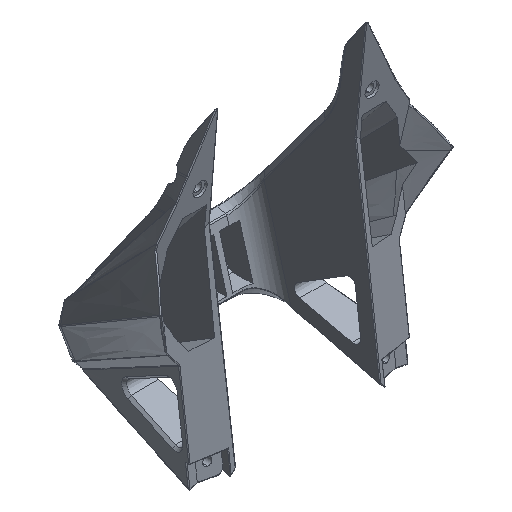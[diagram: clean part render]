
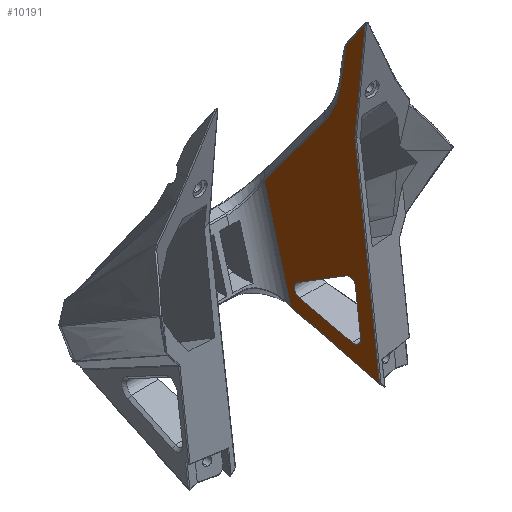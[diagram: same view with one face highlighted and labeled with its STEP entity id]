
A CAD part, isometric view. The second image highlights one B-rep face of the part: STEP entity #10191.
In plain terms, the highlighted planar face has unit normal (-1, -0.025, 0.007).
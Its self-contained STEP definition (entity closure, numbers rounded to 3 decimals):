
#796=CARTESIAN_POINT('',(47.2,285.738,119.605));
#810=DIRECTION('',(-0.004,-0.127,-0.992));
#811=VECTOR('',#810,28.851);
#812=CARTESIAN_POINT('',(48.491,225.532,87.612));
#813=LINE('',#812,#811);
#814=CARTESIAN_POINT('',(47.395,262.093,62.951));
#815=CARTESIAN_POINT('',(47.385,262.527,63.064));
#816=CARTESIAN_POINT('',(47.372,263.123,63.329));
#817=CARTESIAN_POINT('',(47.354,263.995,63.908));
#818=CARTESIAN_POINT('',(47.341,264.701,64.688));
#819=CARTESIAN_POINT('',(47.335,265.232,65.672));
#820=CARTESIAN_POINT('',(47.335,265.504,66.694));
#821=CARTESIAN_POINT('',(47.342,265.541,67.751));
#822=CARTESIAN_POINT('',(47.355,265.32,68.847));
#823=CARTESIAN_POINT('',(47.373,264.871,69.799));
#824=CARTESIAN_POINT('',(47.396,264.205,70.606));
#825=CARTESIAN_POINT('',(47.411,263.712,71.034));
#826=CARTESIAN_POINT('',(47.423,263.329,71.268));
#828=DIRECTION('',(-0.023,0.968,0.251));
#829=VECTOR('',#828,35.7);
#830=CARTESIAN_POINT('',(48.203,227.541,54.005));
#831=LINE('',#830,#829);
#832=CARTESIAN_POINT('',(48.381,221.879,58.993));
#833=CARTESIAN_POINT('',(48.379,221.808,58.437));
#834=CARTESIAN_POINT('',(48.371,221.875,57.562));
#835=CARTESIAN_POINT('',(48.349,222.327,56.172));
#836=CARTESIAN_POINT('',(48.316,223.307,54.907));
#837=CARTESIAN_POINT('',(48.275,224.686,54.094));
#838=CARTESIAN_POINT('',(48.237,226.121,53.821));
#839=CARTESIAN_POINT('',(48.215,226.998,53.865));
#840=CARTESIAN_POINT('',(48.203,227.541,54.005));
#842=DIRECTION('',(-0.022,0.962,0.273));
#843=VECTOR('',#842,59.945);
#844=CARTESIAN_POINT('',(48.551,209.41,38.666));
#845=LINE('',#844,#843);
#846=CARTESIAN_POINT('',(47.214,267.06,55.043));
#847=CARTESIAN_POINT('',(47.212,267.16,55.091));
#848=CARTESIAN_POINT('',(47.207,267.367,55.188));
#849=CARTESIAN_POINT('',(47.202,267.585,55.287));
#850=CARTESIAN_POINT('',(47.2,267.697,55.337));
#852=DIRECTION('',(0.,-0.27,-0.963));
#853=VECTOR('',#852,66.751);
#854=CARTESIAN_POINT('',(47.2,285.738,119.605));
#855=LINE('',#854,#853);
#856=CARTESIAN_POINT('',(47.2,285.738,119.605));
#857=CARTESIAN_POINT('',(47.201,285.705,119.66));
#858=CARTESIAN_POINT('',(47.203,285.638,119.772));
#859=CARTESIAN_POINT('',(47.206,285.57,119.887));
#860=CARTESIAN_POINT('',(47.207,285.535,119.946));
#862=DIRECTION('',(0.021,-0.593,0.805));
#863=VECTOR('',#862,65.935);
#864=CARTESIAN_POINT('',(47.207,285.535,119.946));
#865=LINE('',#864,#863);
#866=CARTESIAN_POINT('',(48.568,246.444,173.026));
#867=CARTESIAN_POINT('',(48.591,245.789,173.916));
#868=CARTESIAN_POINT('',(48.635,244.542,175.724));
#869=CARTESIAN_POINT('',(48.696,242.892,178.443));
#870=CARTESIAN_POINT('',(48.756,241.34,181.385));
#871=CARTESIAN_POINT('',(48.815,239.914,184.535));
#872=CARTESIAN_POINT('',(48.877,238.508,188.289));
#873=CARTESIAN_POINT('',(48.939,237.265,192.625));
#874=CARTESIAN_POINT('',(48.978,236.622,195.934));
#875=CARTESIAN_POINT('',(48.997,236.373,197.695));
#877=DIRECTION('',(0.011,-0.14,0.99));
#878=VECTOR('',#877,26.673);
#879=CARTESIAN_POINT('',(48.997,236.373,197.695));
#880=LINE('',#879,#878);
#881=DIRECTION('',(-0.02,0.561,-0.828));
#882=VECTOR('',#881,22.145);
#883=CARTESIAN_POINT('',(49.721,220.221,242.431));
#884=LINE('',#883,#882);
#885=DIRECTION('',(-0.009,0.091,-0.996));
#886=VECTOR('',#885,69.278);
#887=CARTESIAN_POINT('',(49.721,220.221,242.431));
#888=LINE('',#887,#886);
#950=CARTESIAN_POINT('',(48.491,225.532,87.612));
#951=CARTESIAN_POINT('',(48.493,225.599,88.134));
#952=CARTESIAN_POINT('',(48.492,225.868,88.894));
#953=CARTESIAN_POINT('',(48.481,226.601,90.012));
#954=CARTESIAN_POINT('',(48.458,227.771,90.881));
#955=CARTESIAN_POINT('',(48.425,229.181,91.251));
#956=CARTESIAN_POINT('',(48.391,230.511,91.123));
#957=CARTESIAN_POINT('',(48.369,231.273,90.858));
#958=CARTESIAN_POINT('',(48.356,231.722,90.584));
#977=DIRECTION('',(-0.025,0.853,-0.521));
#978=VECTOR('',#977,37.054);
#979=CARTESIAN_POINT('',(48.356,231.722,90.584));
#980=LINE('',#979,#978);
#2018=CARTESIAN_POINT('',(49.073,226.529,173.444));
#2019=CARTESIAN_POINT('',(49.016,224.631,158.497));
#2020=CARTESIAN_POINT('',(48.9,220.831,128.583));
#2021=CARTESIAN_POINT('',(48.726,215.125,83.657));
#2022=CARTESIAN_POINT('',(48.609,211.316,53.669));
#2023=CARTESIAN_POINT('',(48.551,209.41,38.666));
#8576=CARTESIAN_POINT('',(49.278,232.643,224.104));
#9157=VERTEX_POINT('',#796);
#9161=VERTEX_POINT('',#860);
#9162=VERTEX_POINT('',#866);
#9163=VERTEX_POINT('',#875);
#9178=CARTESIAN_POINT('',(48.551,209.41,38.666));
#9179=CARTESIAN_POINT('',(47.214,267.06,55.043));
#9180=VERTEX_POINT('',#9178);
#9181=VERTEX_POINT('',#9179);
#9182=VERTEX_POINT('',#850);
#9238=VERTEX_POINT('',#8576);
#9380=CARTESIAN_POINT('',(48.491,225.532,87.612));
#9381=CARTESIAN_POINT('',(48.381,221.879,58.993));
#9382=VERTEX_POINT('',#9380);
#9383=VERTEX_POINT('',#9381);
#9384=VERTEX_POINT('',#958);
#9385=VERTEX_POINT('',#840);
#9386=CARTESIAN_POINT('',(47.395,262.093,62.951));
#9387=VERTEX_POINT('',#9386);
#9388=CARTESIAN_POINT('',(47.423,263.329,71.268));
#9389=VERTEX_POINT('',#9388);
#9445=CARTESIAN_POINT('',(49.721,220.221,242.431));
#9446=VERTEX_POINT('',#9445);
#9447=VERTEX_POINT('',#2018);
#10152=CARTESIAN_POINT('',(47.21,251.256,-1.781));
#10153=DIRECTION('',(-1.,-0.025,0.007));
#10154=DIRECTION('',(0.,0.27,0.963));
#10155=AXIS2_PLACEMENT_3D('',#10152,#10153,#10154);
#10156=PLANE('',#10155);
#10158=ORIENTED_EDGE('',*,*,#10157,.T.);
#10160=ORIENTED_EDGE('',*,*,#10159,.T.);
#10161=ORIENTED_EDGE('',*,*,#10142,.T.);
#10162=ORIENTED_EDGE('',*,*,#9994,.F.);
#10164=ORIENTED_EDGE('',*,*,#10163,.T.);
#10166=ORIENTED_EDGE('',*,*,#10165,.T.);
#10168=ORIENTED_EDGE('',*,*,#10167,.T.);
#10170=ORIENTED_EDGE('',*,*,#10169,.T.);
#10172=ORIENTED_EDGE('',*,*,#10171,.F.);
#10174=ORIENTED_EDGE('',*,*,#10173,.T.);
#10175=EDGE_LOOP('',(#10158,#10160,#10161,#10162,#10164,#10166,#10168,#10170,
#10172,#10174));
#10176=FACE_OUTER_BOUND('',#10175,.F.);
#10178=ORIENTED_EDGE('',*,*,#10177,.F.);
#10180=ORIENTED_EDGE('',*,*,#10179,.T.);
#10182=ORIENTED_EDGE('',*,*,#10181,.T.);
#10184=ORIENTED_EDGE('',*,*,#10183,.F.);
#10186=ORIENTED_EDGE('',*,*,#10185,.F.);
#10188=ORIENTED_EDGE('',*,*,#10187,.F.);
#10189=EDGE_LOOP('',(#10178,#10180,#10182,#10184,#10186,#10188));
#10190=FACE_BOUND('',#10189,.F.);
#10191=ADVANCED_FACE('',(#10176,#10190),#10156,.T.);
#827=B_SPLINE_CURVE_WITH_KNOTS('',3,(#814,#815,#816,#817,#818,#819,#820,#821,
#822,#823,#824,#825,#826),.UNSPECIFIED.,.F.,.F.,(4,1,1,1,1,1,1,1,1,1,4),(0.,
0.063,0.125,0.25,0.375,0.5,0.625,0.75,0.875,0.938,1.),
.UNSPECIFIED.);
#841=B_SPLINE_CURVE_WITH_KNOTS('',3,(#832,#833,#834,#835,#836,#837,#838,#839,
#840),.UNSPECIFIED.,.F.,.F.,(4,1,1,1,1,1,4),(0.,0.125,0.25,0.5,0.75,
0.875,1.),.UNSPECIFIED.);
#851=B_SPLINE_CURVE_WITH_KNOTS('',3,(#846,#847,#848,#849,#850),.UNSPECIFIED.,
.F.,.F.,(4,1,4),(0.,0.5,1.),.UNSPECIFIED.);
#861=B_SPLINE_CURVE_WITH_KNOTS('',3,(#856,#857,#858,#859,#860),.UNSPECIFIED.,
.F.,.F.,(4,1,4),(0.,0.5,1.),.UNSPECIFIED.);
#876=B_SPLINE_CURVE_WITH_KNOTS('',3,(#866,#867,#868,#869,#870,#871,#872,#873,
#874,#875),.UNSPECIFIED.,.F.,.F.,(4,1,1,1,1,1,1,4),(0.,0.143,
0.286,0.429,0.571,0.714,
0.857,1.),.UNSPECIFIED.);
#959=B_SPLINE_CURVE_WITH_KNOTS('',3,(#950,#951,#952,#953,#954,#955,#956,#957,
#958),.UNSPECIFIED.,.F.,.F.,(4,1,1,1,1,1,4),(0.,0.125,0.25,0.5,0.75,
0.875,1.),.UNSPECIFIED.);
#2024=B_SPLINE_CURVE_WITH_KNOTS('',3,(#2018,#2019,#2020,#2021,#2022,#2023),
.UNSPECIFIED.,.F.,.F.,(4,1,1,4),(0.,0.333,0.667,1.),
.UNSPECIFIED.);
#9994=EDGE_CURVE('',#9157,#9182,#855,.T.);
#10142=EDGE_CURVE('',#9181,#9182,#851,.T.);
#10157=EDGE_CURVE('',#9447,#9180,#2024,.T.);
#10159=EDGE_CURVE('',#9180,#9181,#845,.T.);
#10163=EDGE_CURVE('',#9157,#9161,#861,.T.);
#10165=EDGE_CURVE('',#9161,#9162,#865,.T.);
#10167=EDGE_CURVE('',#9162,#9163,#876,.T.);
#10169=EDGE_CURVE('',#9163,#9238,#880,.T.);
#10171=EDGE_CURVE('',#9446,#9238,#884,.T.);
#10173=EDGE_CURVE('',#9446,#9447,#888,.T.);
#10177=EDGE_CURVE('',#9382,#9383,#813,.T.);
#10179=EDGE_CURVE('',#9382,#9384,#959,.T.);
#10181=EDGE_CURVE('',#9384,#9389,#980,.T.);
#10183=EDGE_CURVE('',#9387,#9389,#827,.T.);
#10185=EDGE_CURVE('',#9385,#9387,#831,.T.);
#10187=EDGE_CURVE('',#9383,#9385,#841,.T.);
